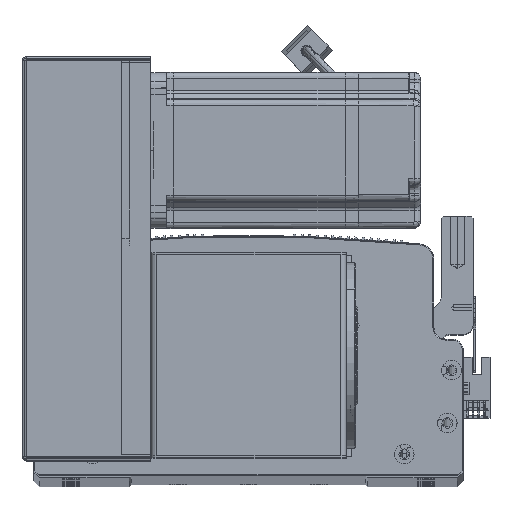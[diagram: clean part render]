
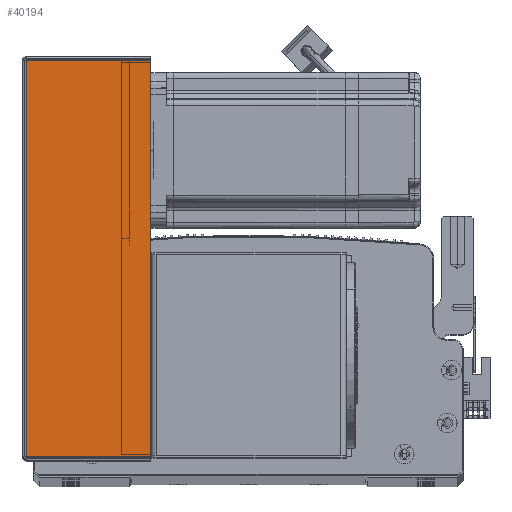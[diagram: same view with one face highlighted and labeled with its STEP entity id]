
A CAD part, top view. The second image highlights one B-rep face of the part: STEP entity #40194.
In plain terms, the highlighted planar face has unit normal (0, 0, 1) as drawn and (0, 1, 0) by its records, which use the part's own axes.
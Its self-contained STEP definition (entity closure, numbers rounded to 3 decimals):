
#2044 = DIRECTION ( 'NONE',  ( 1., 0., 0. ) ) ;
#5068 = CARTESIAN_POINT ( 'NONE',  ( 64.5, 107.5, -0.707 ) ) ;
#8280 = ORIENTED_EDGE ( 'NONE', *, *, #91237, .F. ) ;
#11474 = DIRECTION ( 'NONE',  ( 1., 0., 0. ) ) ;
#14923 = DIRECTION ( 'NONE',  ( 1., 0., 0. ) ) ;
#15452 = EDGE_CURVE ( 'NONE', #86423, #85707, #37817, .T. ) ;
#20623 = CARTESIAN_POINT ( 'NONE',  ( 64.5, 107.5, -203.293 ) ) ;
#31017 = AXIS2_PLACEMENT_3D ( 'NONE', #40755, #46600, #2044 ) ;
#34645 = EDGE_CURVE ( 'NONE', #35693, #57768, #48638, .T. ) ;
#35693 = VERTEX_POINT ( 'NONE', #40434 ) ;
#37817 = LINE ( 'NONE', #48205, #62289 ) ;
#38234 = ORIENTED_EDGE ( 'NONE', *, *, #15452, .T. ) ;
#39098 = CARTESIAN_POINT ( 'NONE',  ( 0.737, 107.5, 0. ) ) ;
#40194 = ADVANCED_FACE ( 'NONE', ( #59318 ), #76257, .F. ) ;
#40434 = CARTESIAN_POINT ( 'NONE',  ( 0.737, 107.5, -203.293 ) ) ;
#40755 = CARTESIAN_POINT ( 'NONE',  ( 0., 107.5, 0. ) ) ;
#42700 = VECTOR ( 'NONE', #84702, 1000. ) ;
#46600 = DIRECTION ( 'NONE',  ( 0., -1., 0. ) ) ;
#48205 = CARTESIAN_POINT ( 'NONE',  ( 0., 107.5, -0.707 ) ) ;
#48488 = LINE ( 'NONE', #72586, #54320 ) ;
#48638 = LINE ( 'NONE', #51979, #49773 ) ;
#49682 = LINE ( 'NONE', #39098, #42700 ) ;
#49773 = VECTOR ( 'NONE', #14923, 1000. ) ;
#49854 = EDGE_CURVE ( 'NONE', #85707, #57768, #48488, .T. ) ;
#51979 = CARTESIAN_POINT ( 'NONE',  ( 0., 107.5, -203.293 ) ) ;
#52691 = CARTESIAN_POINT ( 'NONE',  ( 0.737, 107.5, -0.707 ) ) ;
#54320 = VECTOR ( 'NONE', #65416, 1000. ) ;
#57768 = VERTEX_POINT ( 'NONE', #20623 ) ;
#59318 = FACE_OUTER_BOUND ( 'NONE', #94187, .T. ) ;
#62289 = VECTOR ( 'NONE', #11474, 1000. ) ;
#65416 = DIRECTION ( 'NONE',  ( 0., 0., -1. ) ) ;
#72586 = CARTESIAN_POINT ( 'NONE',  ( 64.5, 107.5, -204. ) ) ;
#76257 = PLANE ( 'NONE',  #31017 ) ;
#79075 = ORIENTED_EDGE ( 'NONE', *, *, #49854, .T. ) ;
#84702 = DIRECTION ( 'NONE',  ( 0., 0., -1. ) ) ;
#85707 = VERTEX_POINT ( 'NONE', #5068 ) ;
#86423 = VERTEX_POINT ( 'NONE', #52691 ) ;
#91237 = EDGE_CURVE ( 'NONE', #86423, #35693, #49682, .T. ) ;
#94187 = EDGE_LOOP ( 'NONE', ( #8280, #38234, #79075, #94814 ) ) ;
#94814 = ORIENTED_EDGE ( 'NONE', *, *, #34645, .F. ) ;
